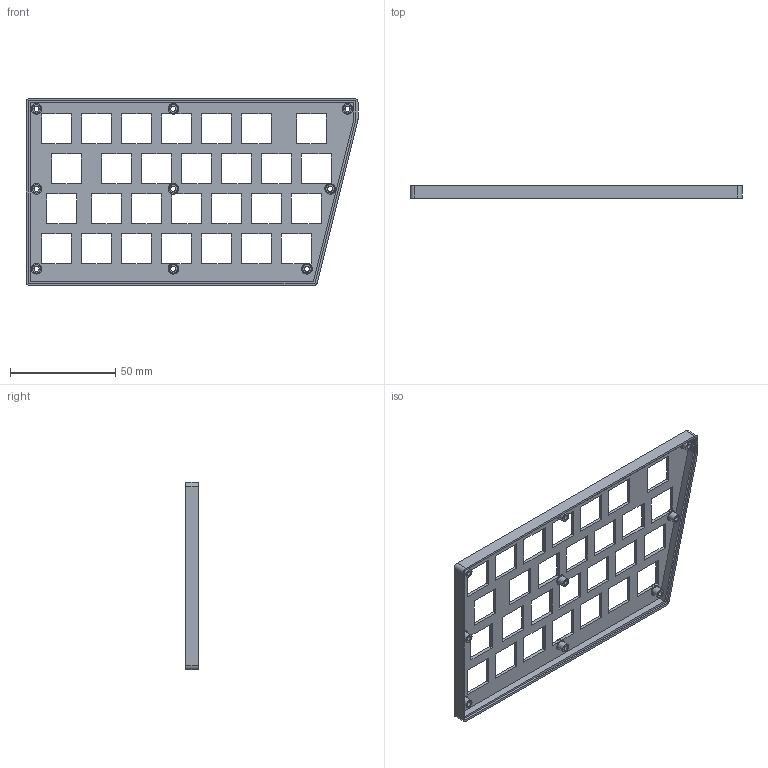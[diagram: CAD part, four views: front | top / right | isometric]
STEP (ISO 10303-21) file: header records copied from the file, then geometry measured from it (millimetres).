
FILE_DESCRIPTION(/* description */ (''),/* implementation_level */ '2;1');
FILE_NAME(/* name */ 'cradoll_keyboard_left_case_top v17.step',/* time_stamp */ '2025-06-19T16:33:15+09:00',/* author */ (''),/* organization */ (''),/* preprocessor_version */ 'ST-DEVELOPER v20.1',/* originating_system */ 'Autodesk Translation Framework v14.10.0.0',/* authorisation */ '');
FILE_SCHEMA (('AUTOMOTIVE_DESIGN { 1 0 10303 214 3 1 1 }'));
Length unit declared in the file: millimetre
Products named in the file (1): cradoll_keyboard_left_case_top
Bounding box: 157.75 x 6 x 89 mm (x, y, z)
Volume: 15305.7 mm3; surface area: 24946.5 mm2
Topology: 11 solids, 11 shells, 224 faces, 576 edges, 384 vertices
Faces by surface type: plane 169, cylinder 46, cone 9
Full cylindrical faces by diameter (mm): 2.4 x9, 4 x9, 5 x13
Entity records: 6961 total; most frequent: CARTESIAN_POINT 1185, ORIENTED_EDGE 1152, DIRECTION 1136, EDGE_CURVE 576, LINE 466, VECTOR 466, VERTEX_POINT 384, AXIS2_PLACEMENT_3D 335
